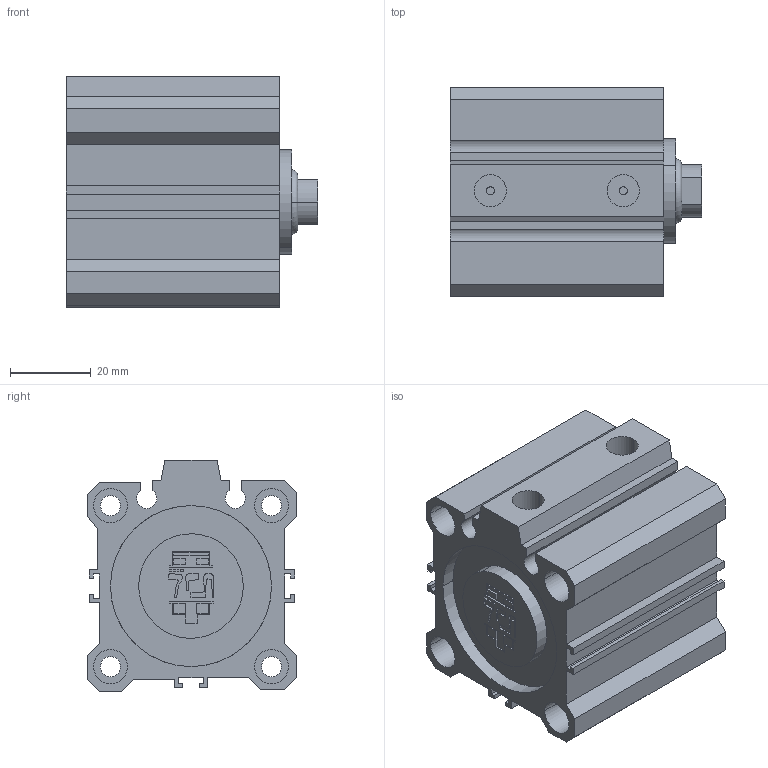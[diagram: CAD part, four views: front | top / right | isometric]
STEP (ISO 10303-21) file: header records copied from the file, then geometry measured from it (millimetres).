
FILE_DESCRIPTION(('CATIA V5 STEP Exchange'),'2;1');
FILE_NAME('D:\PDA\PDA-STP\PDA 40-16\PDA 40-16-15.stp','2016-02-02T10:44:27+00:00',('none'),('none'),'Version 5-6 Release 2012','CATIA V5 STEP AP203','none');
FILE_SCHEMA(('CONFIG_CONTROL_DESIGN'));
Length unit declared in the file: millimetre
Products named in the file (1): PDA 40-16-15-00
Assembly tree (2 placements, depth 2):
  PDA 40-16-15-00
    #58
    #6821
Bounding box: 62.5 x 52 x 57.5 mm (x, y, z)
Volume: 101207.9 mm3; surface area: 39730.6 mm2
Topology: 2 solids, 2 shells, 257 faces, 660 edges, 440 vertices
Faces by surface type: plane 181, cylinder 74, torus 2
Entity records: 7290 total; most frequent: ORIENTED_EDGE 1320, CARTESIAN_POINT 1272, DIRECTION 1004, EDGE_CURVE 660, VECTOR 500, LINE 500, VERTEX_POINT 440, AXIS2_PLACEMENT_3D 332
